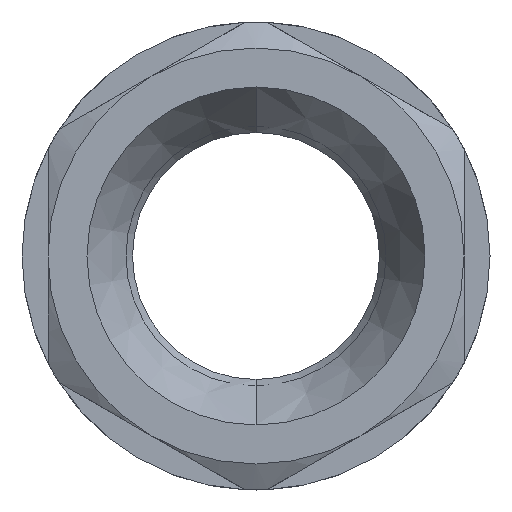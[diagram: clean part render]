
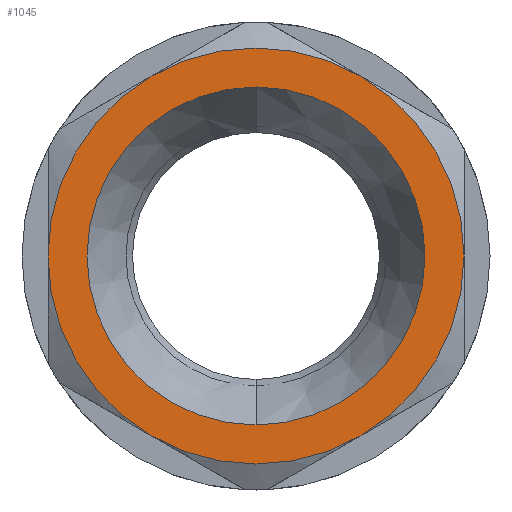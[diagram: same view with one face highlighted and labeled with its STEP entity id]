
A CAD part, left-side view. The second image highlights one B-rep face of the part: STEP entity #1045.
In plain terms, the highlighted planar face has unit normal (-1, 0, 0) as drawn and (1, 0, 0) by its records, which use the part's own axes.
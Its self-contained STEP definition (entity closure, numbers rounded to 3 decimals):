
#386=CARTESIAN_POINT('',(14.,0.,0.));
#387=DIRECTION('',(-1.,0.,0.));
#388=DIRECTION('',(0.,1.,0.));
#389=AXIS2_PLACEMENT_3D('',#386,#387,#388);
#391=CARTESIAN_POINT('',(14.,0.,0.));
#392=DIRECTION('',(1.,0.,0.));
#393=DIRECTION('',(0.,1.,0.));
#394=AXIS2_PLACEMENT_3D('',#391,#392,#393);
#396=CARTESIAN_POINT('',(14.,0.,0.));
#397=DIRECTION('',(1.,0.,0.));
#398=DIRECTION('',(0.,0.,-1.));
#399=AXIS2_PLACEMENT_3D('',#396,#397,#398);
#401=CARTESIAN_POINT('',(14.,0.,0.));
#402=DIRECTION('',(1.,0.,0.));
#403=DIRECTION('',(0.,-0.866,-0.5));
#404=AXIS2_PLACEMENT_3D('',#401,#402,#403);
#406=CARTESIAN_POINT('',(14.,0.,0.));
#407=DIRECTION('',(1.,0.,0.));
#408=DIRECTION('',(0.,0.,1.));
#409=AXIS2_PLACEMENT_3D('',#406,#407,#408);
#411=CARTESIAN_POINT('',(14.,0.,0.));
#412=DIRECTION('',(1.,0.,0.));
#413=DIRECTION('',(0.,0.866,0.5));
#414=AXIS2_PLACEMENT_3D('',#411,#412,#413);
#436=CARTESIAN_POINT('',(14.,0.,0.));
#437=DIRECTION('',(1.,0.,0.));
#438=DIRECTION('',(0.,0.866,-0.5));
#439=AXIS2_PLACEMENT_3D('',#436,#437,#438);
#471=CARTESIAN_POINT('',(14.,0.,0.));
#472=DIRECTION('',(1.,0.,0.));
#473=DIRECTION('',(0.,-0.866,0.5));
#474=AXIS2_PLACEMENT_3D('',#471,#472,#473);
#823=CARTESIAN_POINT('',(14.,13.,0.));
#825=VERTEX_POINT('',#823);
#827=CARTESIAN_POINT('',(14.,-13.,0.));
#829=VERTEX_POINT('',#827);
#878=CARTESIAN_POINT('',(14.,13.856,8.));
#879=CARTESIAN_POINT('',(14.,0.,16.));
#880=VERTEX_POINT('',#878);
#881=VERTEX_POINT('',#879);
#882=CARTESIAN_POINT('',(14.,-13.856,8.));
#883=VERTEX_POINT('',#882);
#884=CARTESIAN_POINT('',(14.,-13.856,-8.));
#885=CARTESIAN_POINT('',(14.,0.,-16.));
#886=VERTEX_POINT('',#884);
#887=VERTEX_POINT('',#885);
#888=CARTESIAN_POINT('',(14.,13.856,-8.));
#889=VERTEX_POINT('',#888);
#1022=CARTESIAN_POINT('',(14.,0.,0.));
#1023=DIRECTION('',(1.,0.,0.));
#1024=DIRECTION('',(0.,-1.,0.));
#1025=AXIS2_PLACEMENT_3D('',#1022,#1023,#1024);
#1026=PLANE('',#1025);
#1028=ORIENTED_EDGE('',*,*,#1027,.F.);
#1030=ORIENTED_EDGE('',*,*,#1029,.F.);
#1032=ORIENTED_EDGE('',*,*,#1031,.F.);
#1034=ORIENTED_EDGE('',*,*,#1033,.F.);
#1036=ORIENTED_EDGE('',*,*,#1035,.F.);
#1038=ORIENTED_EDGE('',*,*,#1037,.F.);
#1039=EDGE_LOOP('',(#1028,#1030,#1032,#1034,#1036,#1038));
#1040=FACE_OUTER_BOUND('',#1039,.F.);
#1041=ORIENTED_EDGE('',*,*,#1001,.F.);
#1042=ORIENTED_EDGE('',*,*,#1017,.T.);
#1043=EDGE_LOOP('',(#1041,#1042));
#1044=FACE_BOUND('',#1043,.F.);
#1045=ADVANCED_FACE('',(#1040,#1044),#1026,.T.);
#390=CIRCLE('',#389,13.);
#395=CIRCLE('',#394,13.);
#400=CIRCLE('',#399,16.);
#405=CIRCLE('',#404,16.);
#410=CIRCLE('',#409,16.);
#415=CIRCLE('',#414,16.);
#440=CIRCLE('',#439,16.);
#475=CIRCLE('',#474,16.);
#1001=EDGE_CURVE('',#825,#829,#390,.T.);
#1017=EDGE_CURVE('',#825,#829,#395,.T.);
#1027=EDGE_CURVE('',#889,#880,#440,.T.);
#1029=EDGE_CURVE('',#887,#889,#400,.T.);
#1031=EDGE_CURVE('',#886,#887,#405,.T.);
#1033=EDGE_CURVE('',#883,#886,#475,.T.);
#1035=EDGE_CURVE('',#881,#883,#410,.T.);
#1037=EDGE_CURVE('',#880,#881,#415,.T.);
